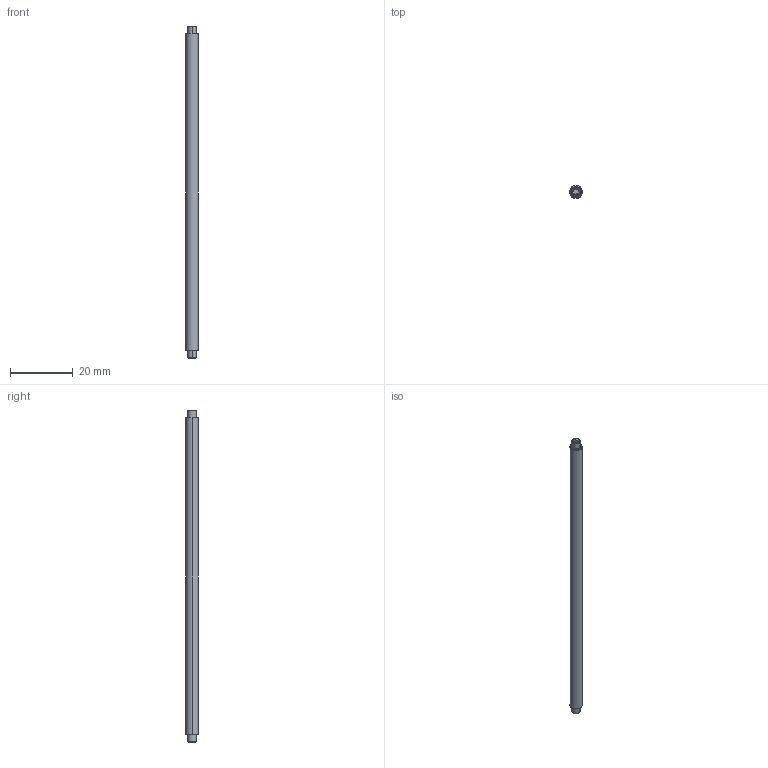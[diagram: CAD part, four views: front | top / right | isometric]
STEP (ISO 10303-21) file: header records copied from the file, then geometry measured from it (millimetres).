
FILE_DESCRIPTION (( 'STEP AP203' ), '1' );
FILE_NAME ('TTN116219-E0W.STEP', '2016-10-12T12:54:14', ( 'admin' ), ( '' ), 'SwSTEP 2.0', 'SolidWorks 2016', '' );
FILE_SCHEMA (( 'CONFIG_CONTROL_DESIGN' ));
Length unit declared in the file: inch
Products named in the file (1): TTN116219-E0W
Bounding box: 3.99 x 3.99 x 106.17 mm (x, y, z)
Volume: 1282.3 mm3; surface area: 1525.7 mm2
Topology: 3 solids, 3 shells, 64 faces, 134 edges, 78 vertices
Faces by surface type: plane 34, cone 16, cylinder 14
Entity records: 1721 total; most frequent: DIRECTION 300, CARTESIAN_POINT 273, ORIENTED_EDGE 260, EDGE_CURVE 130, AXIS2_PLACEMENT_3D 105, LINE 90, VECTOR 90, VERTEX_POINT 78
